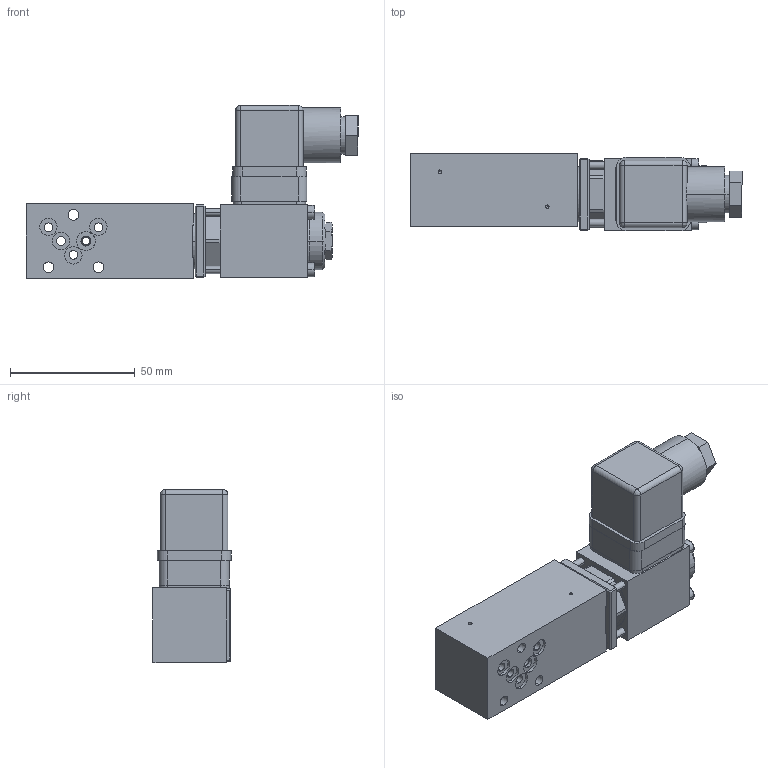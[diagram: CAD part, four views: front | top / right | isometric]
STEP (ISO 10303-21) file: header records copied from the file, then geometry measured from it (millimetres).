
FILE_DESCRIPTION (( 'STEP AP214' ), '1' );
FILE_NAME ('D.PSA03-B.STEP', '2017-04-19T12:49:49', ( '' ), ( '' ), 'SwSTEP 2.0', 'SolidWorks 2016', '' );
FILE_SCHEMA (( 'AUTOMOTIVE_DESIGN' ));
Length unit declared in the file: millimetre
Products named in the file (1): D.PSA03-B
Bounding box: 132.95 x 31.25 x 69.3 mm (x, y, z)
Volume: 127855 mm3; surface area: 35427.1 mm2
Topology: 11 solids, 17 shells, 751 faces, 1860 edges, 1183 vertices
Faces by surface type: plane 398, cylinder 247, cone 74, torus 22, bspline 6, sphere 4
Entity records: 30567 total; most frequent: CARTESIAN_POINT 4124, DIRECTION 3951, ORIENTED_EDGE 3680, EDGE_CURVE 1840, AXIS2_PLACEMENT_3D 1434, VERTEX_POINT 1183, LINE 1083, VECTOR 1083
